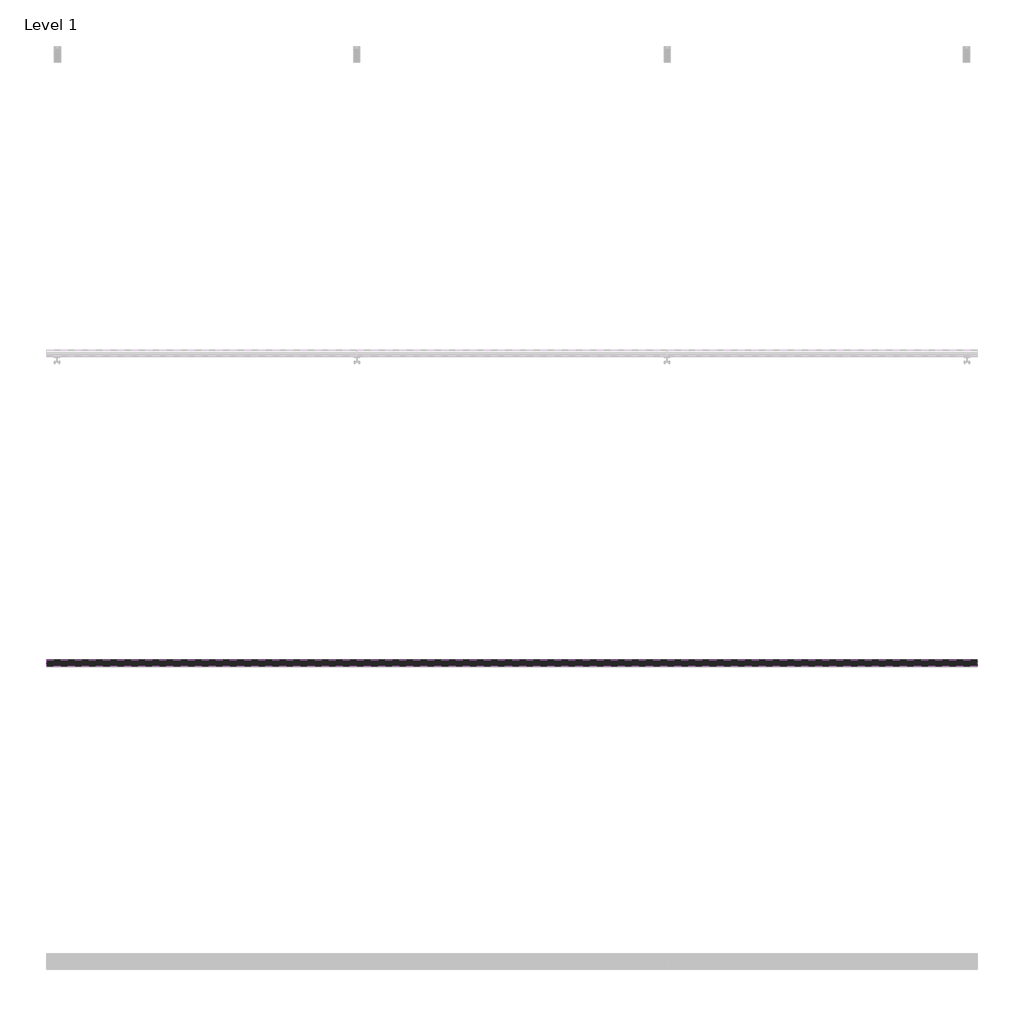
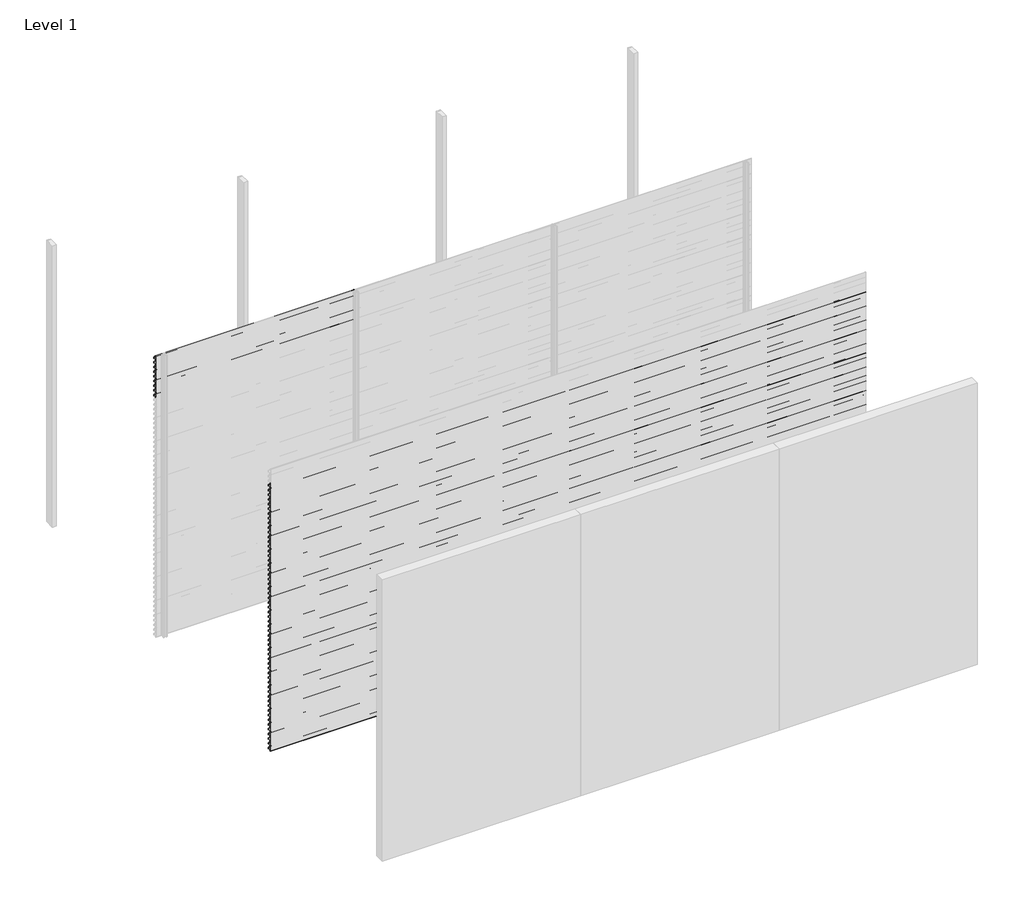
# One storey, part 10 of 38: 66 proxies.
"""IFC4 building model written with IfcOpenShell, lengths in millimetres."""

import ifcopenshell
import ifcopenshell.guid

model = None  # the IFC model being written
_history = None  # IfcOwnerHistory: only IFC2X3 demands one
_inside = {}  # id of a spatial element -> (the spatial element, [elements in it])
_under = {}  # id of a project, library or spatial element -> (it, [spatial elements below it])
_declared = {}  # id of a project -> (the project, [libraries it declares])
_typed = {}  # id of a type object -> (the type object, [elements of that type])
_made_of = {}  # id of a material, layer set ... -> (it, [elements and type objects made of it])


def new_model(schema):
    """Start an empty IFC model of exactly this schema.

    Asked for "IFC4X3", IfcOpenShell would pick the latest addendum, in which some entities
    have other attributes; the version numbers below select the first issue.
    IFC2X3 requires an IfcOwnerHistory on every rooted entity: one is made here for all.
    """
    global model, _history
    if schema == "IFC4X3":
        model = ifcopenshell.file(schema_version=(4, 3, 0, 0))
    else:
        model = ifcopenshell.file(schema=schema)
    _inside.clear()
    _under.clear()
    _declared.clear()
    _typed.clear()
    _made_of.clear()
    _history = None
    if model.schema == "IFC2X3":
        org = make("IfcOrganization", Name="unknown")
        user = make(
            "IfcPersonAndOrganization",
            ThePerson=make("IfcPerson", FamilyName="unknown"),
            TheOrganization=org,
        )
        app = make(
            "IfcApplication",
            ApplicationDeveloper=org,
            Version="unknown",
            ApplicationFullName="unknown",
            ApplicationIdentifier="unknown",
        )
        _history = make(
            "IfcOwnerHistory",
            OwningUser=user,
            OwningApplication=app,
            ChangeAction="ADDED",
            CreationDate=0,
        )
    return model


def make(cls, **values):
    """One entity of the class cls with the attributes given. An attribute that is None is left unset."""
    return model.create_entity(
        cls, **{name: value for name, value in values.items() if value is not None}
    )


def rooted(cls, **values):
    """An entity with a GlobalId (a new one), such as an element, a storey or a relation."""
    return make(cls, GlobalId=ifcopenshell.guid.new(), OwnerHistory=_history, **values)


def si_unit(unit_type, name, prefix=None):
    """IfcSIUnit, for example si_unit("LENGTHUNIT", "METRE", prefix="MILLI")."""
    return make("IfcSIUnit", UnitType=unit_type, Prefix=prefix, Name=name)


def assignment(units):
    """IfcUnitAssignment: the units of a project."""
    return None if units is None else make("IfcUnitAssignment", Units=units)


def point(xyz):
    """IfcCartesianPoint."""
    return None if xyz is None else make("IfcCartesianPoint", Coordinates=xyz)


def direction(xyz):
    """IfcDirection."""
    return None if xyz is None else make("IfcDirection", DirectionRatios=xyz)


def frame(location, z_axis=None, x_axis=None):
    """IfcAxis2Placement3D, a coordinate frame: its origin and axes. An axis left out is left unset."""
    return make(
        "IfcAxis2Placement3D",
        Location=point(location),
        Axis=direction(z_axis),
        RefDirection=direction(x_axis),
    )


def origin():
    """The frame at (0, 0, 0) with its axes left unset."""
    return frame((0.0, 0.0, 0.0))


def place(relative_to, where):
    """IfcLocalPlacement: puts the frame where relative to a parent placement (None: the world)."""
    return make(
        "IfcLocalPlacement", PlacementRelTo=relative_to, RelativePlacement=where
    )


def context(
    kind, dimensions, precision=None, world=None, true_north=None, identifier=None
):
    """IfcGeometricRepresentationContext, for example the 3D "Model" context."""
    return make(
        "IfcGeometricRepresentationContext",
        ContextIdentifier=identifier,
        ContextType=kind,
        CoordinateSpaceDimension=dimensions,
        Precision=precision,
        WorldCoordinateSystem=world,
        TrueNorth=true_north,
    )


def project(units=None, contexts=None):
    """IfcProject with its units and contexts."""
    return rooted(
        "IfcProject",
        Name="project",
        RepresentationContexts=contexts,
        UnitsInContext=assignment(units),
    )


def spatial(cls, under=None, at=None, **own):
    """A site, building, storey or space (cls), placed at a placement, below another one or the project."""
    s = rooted(cls, ObjectPlacement=at, **own)
    if under is not None:
        _under.setdefault(under.id(), (under, []))[1].append(s)
    return s


def polyline(points):
    """IfcPolyline through the points."""
    return make("IfcPolyline", Points=[point(p) for p in points])


def outline(outer, holes=None, kind="AREA"):
    """IfcArbitraryClosedProfileDef: a profile drawn as a closed curve; with holes, ...WithVoids."""
    if holes is None:
        return make("IfcArbitraryClosedProfileDef", ProfileType=kind, OuterCurve=outer)
    return make(
        "IfcArbitraryProfileDefWithVoids",
        ProfileType=kind,
        OuterCurve=outer,
        InnerCurves=holes,
    )


def extrude(swept, where, along, depth):
    """IfcExtrudedAreaSolid: the profile swept, set in the frame where, extruded along a direction by depth."""
    return make(
        "IfcExtrudedAreaSolid",
        SweptArea=swept,
        Position=where,
        ExtrudedDirection=direction(along),
        Depth=depth,
    )


def shape(context_of_items, identifier, shape_type, items):
    """IfcShapeRepresentation: the items that make up one representation, for example the "Body"."""
    return make(
        "IfcShapeRepresentation",
        ContextOfItems=context_of_items,
        RepresentationIdentifier=identifier,
        RepresentationType=shape_type,
        Items=items,
    )


def made_of(thing, what):
    """Note that an element or type object is made of a material, layer set ...; save() writes the relation."""
    if what is not None:
        _made_of.setdefault(what.id(), (what, []))[1].append(thing)
    return thing


def element(
    cls,
    number,
    at=None,
    inside=None,
    cuts=None,
    type_object=None,
    material=None,
    context=None,
    identifier="Body",
    shape_type=None,
    held_by="IfcProductDefinitionShape",
    body=None,
    shapes=None,
    **own,
):
    """One element of the class cls, such as IfcWall. Its Tag is "e" and its number.

    at: its placement. inside: the storey or other place that contains it. cuts: it is an
    opening in that element (IfcRelVoidsElement). A single representation is given by context,
    identifier, shape_type and body (its items); several are given by shapes. held_by: the class
    of the entity that holds the representations. save() writes the other relations.
    """
    e = rooted(cls, Tag="e%d" % number, ObjectPlacement=at, **own)
    if body is not None:
        shapes = [shape(context, identifier, shape_type, body)]
    if shapes is not None:
        e.Representation = make(held_by, Representations=shapes)
    if inside is not None:
        _inside.setdefault(inside.id(), (inside, []))[1].append(e)
    if cuts is not None:
        rooted(
            "IfcRelVoidsElement", RelatingBuildingElement=cuts, RelatedOpeningElement=e
        )
    if type_object is not None:
        _typed.setdefault(type_object.id(), (type_object, []))[1].append(e)
    return made_of(e, material)


def aggregate(whole, parts):
    """IfcRelAggregates: a whole, such as a stair, and the parts it consists of."""
    return rooted("IfcRelAggregates", RelatingObject=whole, RelatedObjects=parts)


def save(model, path):
    """Write the relations noted so far, then the file.

    IfcRelAggregates (storeys below a building ...), IfcRelContainedInSpatialStructure (elements
    in a storey), IfcRelDefinesByType, IfcRelAssociatesMaterial and IfcRelDeclares: one each for
    every whole, place, type object, material and project.
    """
    for whole, parts in _under.values():
        aggregate(whole, parts)
    for where, things in _inside.values():
        rooted(
            "IfcRelContainedInSpatialStructure",
            RelatedElements=things,
            RelatingStructure=where,
        )
    for kind, things in _typed.values():
        rooted("IfcRelDefinesByType", RelatedObjects=things, RelatingType=kind)
    for what, things in _made_of.values():
        rooted("IfcRelAssociatesMaterial", RelatedObjects=things, RelatingMaterial=what)
    for by, libraries in _declared.values():
        rooted("IfcRelDeclares", RelatingContext=by, RelatedDefinitions=libraries)
    model.write(path)


model = new_model("IFC4")

# Units and contexts
model_context = context("Model", 3, world=origin())
ifc_project = project(units=[si_unit("LENGTHUNIT", "METRE", prefix="MILLI")], contexts=[model_context])

# Site, building, storey
site = spatial("IfcSite", under=ifc_project)
building = spatial("IfcBuilding", under=site)
storey = spatial("IfcBuildingStorey", under=building, Name="Level 1", Elevation=0.0)

# Proxies
placement = place(None, origin())
element("IfcBuildingElementProxy", 1, Name="Wall Sweeps", at=placement, inside=storey, context=model_context, shape_type="SweptSolid", body=[
    extrude(outline(polyline([(-41996.75, 3000.0), (-41996.75, 2989.19656), (-41974.6057113, 2976.4115489), (-41957.0, 2959.0472005), (-41957.0, 2944.0472005), (-41958.3, 2945.0268207), (-41958.3, 2958.5034593), (-41969.4914725, 2969.541504), (-41994.2797376, 2940.0), (-41995.9767671, 2940.0), (-41970.4200307, 2970.4573323), (-41975.3999793, 2975.3690091), (-41998.0, 2988.4171371), (-41998.0, 3000.0), (-41996.75, 3000.0)])), frame((0.0, 0.0, 0.0), z_axis=(1.0, 0.0, 0.0), x_axis=(0.0, 1.0, 0.0)), (0.0, 0.0, 1.0), 2000.0),
])
element("IfcBuildingElementProxy", 2, Name="Wall Sweeps", at=placement, inside=storey, context=model_context, shape_type="SweptSolid", body=[
    extrude(outline(polyline([(-41996.75, 2950.0), (-41996.75, 2939.19656), (-41974.6057113, 2926.4115489), (-41957.0, 2909.0472005), (-41957.0, 2894.0472005), (-41958.3, 2895.0268207), (-41958.3, 2908.5034593), (-41969.4914725, 2919.541504), (-41994.2797376, 2890.0), (-41995.9767671, 2890.0), (-41970.4200307, 2920.4573323), (-41975.3999793, 2925.3690091), (-41998.0, 2938.4171371), (-41998.0, 2950.0), (-41996.75, 2950.0)])), frame((0.0, 0.0, 0.0), z_axis=(1.0, 0.0, 0.0), x_axis=(0.0, 1.0, 0.0)), (0.0, 0.0, 1.0), 2000.0),
])
element("IfcBuildingElementProxy", 3, Name="Wall Sweeps", at=placement, inside=storey, context=model_context, shape_type="SweptSolid", body=[
    extrude(outline(polyline([(-41996.75, 2900.0), (-41996.75, 2889.19656), (-41974.6057113, 2876.4115489), (-41957.0, 2859.0472005), (-41957.0, 2844.0472005), (-41958.3, 2845.0268207), (-41958.3, 2858.5034593), (-41969.4914725, 2869.541504), (-41994.2797376, 2840.0), (-41995.9767671, 2840.0), (-41970.4200307, 2870.4573323), (-41975.3999793, 2875.3690091), (-41998.0, 2888.4171371), (-41998.0, 2900.0), (-41996.75, 2900.0)])), frame((0.0, 0.0, 0.0), z_axis=(1.0, 0.0, 0.0), x_axis=(0.0, 1.0, 0.0)), (0.0, 0.0, 1.0), 2000.0),
])
element("IfcBuildingElementProxy", 4, Name="Wall Sweeps", at=placement, inside=storey, context=model_context, shape_type="SweptSolid", body=[
    extrude(outline(polyline([(-41996.75, 2850.0), (-41996.75, 2839.19656), (-41974.6057113, 2826.4115489), (-41957.0, 2809.0472005), (-41957.0, 2794.0472005), (-41958.3, 2795.0268207), (-41958.3, 2808.5034593), (-41969.4914725, 2819.541504), (-41994.2797376, 2790.0), (-41995.9767671, 2790.0), (-41970.4200307, 2820.4573323), (-41975.3999793, 2825.3690091), (-41998.0, 2838.4171371), (-41998.0, 2850.0), (-41996.75, 2850.0)])), frame((0.0, 0.0, 0.0), z_axis=(1.0, 0.0, 0.0), x_axis=(0.0, 1.0, 0.0)), (0.0, 0.0, 1.0), 2000.0),
])
element("IfcBuildingElementProxy", 5, Name="Wall Sweeps", at=placement, inside=storey, context=model_context, shape_type="SweptSolid", body=[
    extrude(outline(polyline([(-41996.75, 2800.0), (-41996.75, 2789.19656), (-41974.6057113, 2776.4115489), (-41957.0, 2759.0472005), (-41957.0, 2744.0472005), (-41958.3, 2745.0268207), (-41958.3, 2758.5034593), (-41969.4914725, 2769.541504), (-41994.2797376, 2740.0), (-41995.9767671, 2740.0), (-41970.4200307, 2770.4573323), (-41975.3999793, 2775.3690091), (-41998.0, 2788.4171371), (-41998.0, 2800.0), (-41996.75, 2800.0)])), frame((0.0, 0.0, 0.0), z_axis=(1.0, 0.0, 0.0), x_axis=(0.0, 1.0, 0.0)), (0.0, 0.0, 1.0), 2000.0),
])
element("IfcBuildingElementProxy", 6, Name="Wall Sweeps", at=placement, inside=storey, context=model_context, shape_type="SweptSolid", body=[
    extrude(outline(polyline([(-41996.75, 2750.0), (-41996.75, 2739.19656), (-41974.6057113, 2726.4115489), (-41957.0, 2709.0472005), (-41957.0, 2694.0472005), (-41958.3, 2695.0268207), (-41958.3, 2708.5034593), (-41969.4914725, 2719.541504), (-41994.2797376, 2690.0), (-41995.9767671, 2690.0), (-41970.4200307, 2720.4573323), (-41975.3999793, 2725.3690091), (-41998.0, 2738.4171371), (-41998.0, 2750.0), (-41996.75, 2750.0)])), frame((0.0, 0.0, 0.0), z_axis=(1.0, 0.0, 0.0), x_axis=(0.0, 1.0, 0.0)), (0.0, 0.0, 1.0), 2000.0),
])
element("IfcBuildingElementProxy", 7, Name="Wall Sweeps", at=placement, inside=storey, context=model_context, shape_type="SweptSolid", body=[
    extrude(outline(polyline([(-41996.75, 2700.0), (-41996.75, 2689.19656), (-41974.6057113, 2676.4115489), (-41957.0, 2659.0472005), (-41957.0, 2644.0472005), (-41958.3, 2645.0268207), (-41958.3, 2658.5034593), (-41969.4914725, 2669.541504), (-41994.2797376, 2640.0), (-41995.9767671, 2640.0), (-41970.4200307, 2670.4573323), (-41975.3999793, 2675.3690091), (-41998.0, 2688.4171371), (-41998.0, 2700.0), (-41996.75, 2700.0)])), frame((0.0, 0.0, 0.0), z_axis=(1.0, 0.0, 0.0), x_axis=(0.0, 1.0, 0.0)), (0.0, 0.0, 1.0), 2000.0),
])
element("IfcBuildingElementProxy", 8, Name="Wall Sweeps", at=placement, inside=storey, context=model_context, shape_type="SweptSolid", body=[
    extrude(outline(polyline([(-41996.75, 2650.0), (-41996.75, 2639.19656), (-41974.6057113, 2626.4115489), (-41957.0, 2609.0472005), (-41957.0, 2594.0472005), (-41958.3, 2595.0268207), (-41958.3, 2608.5034593), (-41969.4914725, 2619.541504), (-41994.2797376, 2590.0), (-41995.9767671, 2590.0), (-41970.4200307, 2620.4573323), (-41975.3999793, 2625.3690091), (-41998.0, 2638.4171371), (-41998.0, 2650.0), (-41996.75, 2650.0)])), frame((0.0, 0.0, 0.0), z_axis=(1.0, 0.0, 0.0), x_axis=(0.0, 1.0, 0.0)), (0.0, 0.0, 1.0), 2000.0),
])
element("IfcBuildingElementProxy", 9, Name="Wall Sweeps", at=placement, inside=storey, context=model_context, shape_type="SweptSolid", body=[
    extrude(outline(polyline([(-41996.75, 2600.0), (-41996.75, 2589.19656), (-41974.6057113, 2576.4115489), (-41957.0, 2559.0472005), (-41957.0, 2544.0472005), (-41958.3, 2545.0268207), (-41958.3, 2558.5034593), (-41969.4914725, 2569.541504), (-41994.2797376, 2540.0), (-41995.9767671, 2540.0), (-41970.4200307, 2570.4573323), (-41975.3999793, 2575.3690091), (-41998.0, 2588.4171371), (-41998.0, 2600.0), (-41996.75, 2600.0)])), frame((0.0, 0.0, 0.0), z_axis=(1.0, 0.0, 0.0), x_axis=(0.0, 1.0, 0.0)), (0.0, 0.0, 1.0), 2000.0),
])
element("IfcBuildingElementProxy", 10, Name="Wall Sweeps", at=placement, inside=storey, context=model_context, shape_type="SweptSolid", body=[
    extrude(outline(polyline([(-43996.75, 2850.0), (-43996.75, 2839.19656), (-43974.6057113, 2826.4115489), (-43957.0, 2809.0472005), (-43957.0, 2794.0472005), (-43958.3, 2795.0268207), (-43958.3, 2808.5034593), (-43969.4914725, 2819.541504), (-43994.2797376, 2790.0), (-43995.9767671, 2790.0), (-43970.4200307, 2820.4573323), (-43975.3999793, 2825.3690091), (-43998.0, 2838.4171371), (-43998.0, 2850.0), (-43996.75, 2850.0)])), frame((0.0, 0.0, 0.0), z_axis=(1.0, 0.0, 0.0), x_axis=(0.0, 1.0, 0.0)), (0.0, 0.0, 1.0), 6000.0),
])
element("IfcBuildingElementProxy", 11, Name="Wall Sweeps", at=placement, inside=storey, context=model_context, shape_type="SweptSolid", body=[
    extrude(outline(polyline([(-43996.75, 2800.0), (-43996.75, 2789.19656), (-43974.6057113, 2776.4115489), (-43957.0, 2759.0472005), (-43957.0, 2744.0472005), (-43958.3, 2745.0268207), (-43958.3, 2758.5034593), (-43969.4914725, 2769.541504), (-43994.2797376, 2740.0), (-43995.9767671, 2740.0), (-43970.4200307, 2770.4573323), (-43975.3999793, 2775.3690091), (-43998.0, 2788.4171371), (-43998.0, 2800.0), (-43996.75, 2800.0)])), frame((0.0, 0.0, 0.0), z_axis=(1.0, 0.0, 0.0), x_axis=(0.0, 1.0, 0.0)), (0.0, 0.0, 1.0), 6000.0),
])
element("IfcBuildingElementProxy", 12, Name="Wall Sweeps", at=placement, inside=storey, context=model_context, shape_type="SweptSolid", body=[
    extrude(outline(polyline([(-43996.75, 2750.0), (-43996.75, 2739.19656), (-43974.6057113, 2726.4115489), (-43957.0, 2709.0472005), (-43957.0, 2694.0472005), (-43958.3, 2695.0268207), (-43958.3, 2708.5034593), (-43969.4914725, 2719.541504), (-43994.2797376, 2690.0), (-43995.9767671, 2690.0), (-43970.4200307, 2720.4573323), (-43975.3999793, 2725.3690091), (-43998.0, 2738.4171371), (-43998.0, 2750.0), (-43996.75, 2750.0)])), frame((0.0, 0.0, 0.0), z_axis=(1.0, 0.0, 0.0), x_axis=(0.0, 1.0, 0.0)), (0.0, 0.0, 1.0), 6000.0),
])
element("IfcBuildingElementProxy", 13, Name="Wall Sweeps", at=placement, inside=storey, context=model_context, shape_type="SweptSolid", body=[
    extrude(outline(polyline([(-43996.75, 2700.0), (-43996.75, 2689.19656), (-43974.6057113, 2676.4115489), (-43957.0, 2659.0472005), (-43957.0, 2644.0472005), (-43958.3, 2645.0268207), (-43958.3, 2658.5034593), (-43969.4914725, 2669.541504), (-43994.2797376, 2640.0), (-43995.9767671, 2640.0), (-43970.4200307, 2670.4573323), (-43975.3999793, 2675.3690091), (-43998.0, 2688.4171371), (-43998.0, 2700.0), (-43996.75, 2700.0)])), frame((0.0, 0.0, 0.0), z_axis=(1.0, 0.0, 0.0), x_axis=(0.0, 1.0, 0.0)), (0.0, 0.0, 1.0), 6000.0),
])
element("IfcBuildingElementProxy", 14, Name="Wall Sweeps", at=placement, inside=storey, context=model_context, shape_type="SweptSolid", body=[
    extrude(outline(polyline([(-43996.75, 2650.0), (-43996.75, 2639.19656), (-43974.6057113, 2626.4115489), (-43957.0, 2609.0472005), (-43957.0, 2594.0472005), (-43958.3, 2595.0268207), (-43958.3, 2608.5034593), (-43969.4914725, 2619.541504), (-43994.2797376, 2590.0), (-43995.9767671, 2590.0), (-43970.4200307, 2620.4573323), (-43975.3999793, 2625.3690091), (-43998.0, 2638.4171371), (-43998.0, 2650.0), (-43996.75, 2650.0)])), frame((0.0, 0.0, 0.0), z_axis=(1.0, 0.0, 0.0), x_axis=(0.0, 1.0, 0.0)), (0.0, 0.0, 1.0), 6000.0),
])
element("IfcBuildingElementProxy", 15, Name="Wall Sweeps", at=placement, inside=storey, context=model_context, shape_type="SweptSolid", body=[
    extrude(outline(polyline([(-43996.75, 2600.0), (-43996.75, 2589.19656), (-43974.6057113, 2576.4115489), (-43957.0, 2559.0472005), (-43957.0, 2544.0472005), (-43958.3, 2545.0268207), (-43958.3, 2558.5034593), (-43969.4914725, 2569.541504), (-43994.2797376, 2540.0), (-43995.9767671, 2540.0), (-43970.4200307, 2570.4573323), (-43975.3999793, 2575.3690091), (-43998.0, 2588.4171371), (-43998.0, 2600.0), (-43996.75, 2600.0)])), frame((0.0, 0.0, 0.0), z_axis=(1.0, 0.0, 0.0), x_axis=(0.0, 1.0, 0.0)), (0.0, 0.0, 1.0), 6000.0),
])
element("IfcBuildingElementProxy", 16, Name="Wall Sweeps", at=placement, inside=storey, context=model_context, shape_type="SweptSolid", body=[
    extrude(outline(polyline([(-43996.75, 2550.0), (-43996.75, 2539.19656), (-43974.6057113, 2526.4115489), (-43957.0, 2509.0472005), (-43957.0, 2494.0472005), (-43958.3, 2495.0268207), (-43958.3, 2508.5034593), (-43969.4914725, 2519.541504), (-43994.2797376, 2490.0), (-43995.9767671, 2490.0), (-43970.4200307, 2520.4573323), (-43975.3999793, 2525.3690091), (-43998.0, 2538.4171371), (-43998.0, 2550.0), (-43996.75, 2550.0)])), frame((0.0, 0.0, 0.0), z_axis=(1.0, 0.0, 0.0), x_axis=(0.0, 1.0, 0.0)), (0.0, 0.0, 1.0), 6000.0),
])
element("IfcBuildingElementProxy", 17, Name="Wall Sweeps", at=placement, inside=storey, context=model_context, shape_type="SweptSolid", body=[
    extrude(outline(polyline([(-43996.75, 2500.0), (-43996.75, 2489.19656), (-43974.6057113, 2476.4115489), (-43957.0, 2459.0472005), (-43957.0, 2444.0472005), (-43958.3, 2445.0268207), (-43958.3, 2458.5034593), (-43969.4914725, 2469.541504), (-43994.2797376, 2440.0), (-43995.9767671, 2440.0), (-43970.4200307, 2470.4573323), (-43975.3999793, 2475.3690091), (-43998.0, 2488.4171371), (-43998.0, 2500.0), (-43996.75, 2500.0)])), frame((0.0, 0.0, 0.0), z_axis=(1.0, 0.0, 0.0), x_axis=(0.0, 1.0, 0.0)), (0.0, 0.0, 1.0), 6000.0),
])
element("IfcBuildingElementProxy", 18, Name="Wall Sweeps", at=placement, inside=storey, context=model_context, shape_type="SweptSolid", body=[
    extrude(outline(polyline([(-43996.75, 2450.0), (-43996.75, 2439.19656), (-43974.6057113, 2426.4115489), (-43957.0, 2409.0472005), (-43957.0, 2394.0472005), (-43958.3, 2395.0268207), (-43958.3, 2408.5034593), (-43969.4914725, 2419.541504), (-43994.2797376, 2390.0), (-43995.9767671, 2390.0), (-43970.4200307, 2420.4573323), (-43975.3999793, 2425.3690091), (-43998.0, 2438.4171371), (-43998.0, 2450.0), (-43996.75, 2450.0)])), frame((0.0, 0.0, 0.0), z_axis=(1.0, 0.0, 0.0), x_axis=(0.0, 1.0, 0.0)), (0.0, 0.0, 1.0), 6000.0),
])
element("IfcBuildingElementProxy", 19, Name="Wall Sweeps", at=placement, inside=storey, context=model_context, shape_type="SweptSolid", body=[
    extrude(outline(polyline([(-43996.75, 2400.0), (-43996.75, 2389.19656), (-43974.6057113, 2376.4115489), (-43957.0, 2359.0472005), (-43957.0, 2344.0472005), (-43958.3, 2345.0268207), (-43958.3, 2358.5034593), (-43969.4914725, 2369.541504), (-43994.2797376, 2340.0), (-43995.9767671, 2340.0), (-43970.4200307, 2370.4573323), (-43975.3999793, 2375.3690091), (-43998.0, 2388.4171371), (-43998.0, 2400.0), (-43996.75, 2400.0)])), frame((0.0, 0.0, 0.0), z_axis=(1.0, 0.0, 0.0), x_axis=(0.0, 1.0, 0.0)), (0.0, 0.0, 1.0), 6000.0),
])
element("IfcBuildingElementProxy", 20, Name="Wall Sweeps", at=placement, inside=storey, context=model_context, shape_type="SweptSolid", body=[
    extrude(outline(polyline([(-43996.75, 2350.0), (-43996.75, 2339.19656), (-43974.6057113, 2326.4115489), (-43957.0, 2309.0472005), (-43957.0, 2294.0472005), (-43958.3, 2295.0268207), (-43958.3, 2308.5034593), (-43969.4914725, 2319.541504), (-43994.2797376, 2290.0), (-43995.9767671, 2290.0), (-43970.4200307, 2320.4573323), (-43975.3999793, 2325.3690091), (-43998.0, 2338.4171371), (-43998.0, 2350.0), (-43996.75, 2350.0)])), frame((0.0, 0.0, 0.0), z_axis=(1.0, 0.0, 0.0), x_axis=(0.0, 1.0, 0.0)), (0.0, 0.0, 1.0), 6000.0),
])
element("IfcBuildingElementProxy", 21, Name="Wall Sweeps", at=placement, inside=storey, context=model_context, shape_type="SweptSolid", body=[
    extrude(outline(polyline([(-43996.75, 2300.0), (-43996.75, 2289.19656), (-43974.6057113, 2276.4115489), (-43957.0, 2259.0472005), (-43957.0, 2244.0472005), (-43958.3, 2245.0268207), (-43958.3, 2258.5034593), (-43969.4914725, 2269.541504), (-43994.2797376, 2240.0), (-43995.9767671, 2240.0), (-43970.4200307, 2270.4573323), (-43975.3999793, 2275.3690091), (-43998.0, 2288.4171371), (-43998.0, 2300.0), (-43996.75, 2300.0)])), frame((0.0, 0.0, 0.0), z_axis=(1.0, 0.0, 0.0), x_axis=(0.0, 1.0, 0.0)), (0.0, 0.0, 1.0), 6000.0),
])
element("IfcBuildingElementProxy", 22, Name="Wall Sweeps", at=placement, inside=storey, context=model_context, shape_type="SweptSolid", body=[
    extrude(outline(polyline([(-43996.75, 2250.0), (-43996.75, 2239.19656), (-43974.6057113, 2226.4115489), (-43957.0, 2209.0472005), (-43957.0, 2194.0472005), (-43958.3, 2195.0268207), (-43958.3, 2208.5034593), (-43969.4914725, 2219.541504), (-43994.2797376, 2190.0), (-43995.9767671, 2190.0), (-43970.4200307, 2220.4573323), (-43975.3999793, 2225.3690091), (-43998.0, 2238.4171371), (-43998.0, 2250.0), (-43996.75, 2250.0)])), frame((0.0, 0.0, 0.0), z_axis=(1.0, 0.0, 0.0), x_axis=(0.0, 1.0, 0.0)), (0.0, 0.0, 1.0), 6000.0),
])
element("IfcBuildingElementProxy", 23, Name="Wall Sweeps", at=placement, inside=storey, context=model_context, shape_type="SweptSolid", body=[
    extrude(outline(polyline([(-43996.75, 2200.0), (-43996.75, 2189.19656), (-43974.6057113, 2176.4115489), (-43957.0, 2159.0472005), (-43957.0, 2144.0472005), (-43958.3, 2145.0268207), (-43958.3, 2158.5034593), (-43969.4914725, 2169.541504), (-43994.2797376, 2140.0), (-43995.9767671, 2140.0), (-43970.4200307, 2170.4573323), (-43975.3999793, 2175.3690091), (-43998.0, 2188.4171371), (-43998.0, 2200.0), (-43996.75, 2200.0)])), frame((0.0, 0.0, 0.0), z_axis=(1.0, 0.0, 0.0), x_axis=(0.0, 1.0, 0.0)), (0.0, 0.0, 1.0), 6000.0),
])
element("IfcBuildingElementProxy", 24, Name="Wall Sweeps", at=placement, inside=storey, context=model_context, shape_type="SweptSolid", body=[
    extrude(outline(polyline([(-43996.75, 2150.0), (-43996.75, 2139.19656), (-43974.6057113, 2126.4115489), (-43957.0, 2109.0472005), (-43957.0, 2094.0472005), (-43958.3, 2095.0268207), (-43958.3, 2108.5034593), (-43969.4914725, 2119.541504), (-43994.2797376, 2090.0), (-43995.9767671, 2090.0), (-43970.4200307, 2120.4573323), (-43975.3999793, 2125.3690091), (-43998.0, 2138.4171371), (-43998.0, 2150.0), (-43996.75, 2150.0)])), frame((0.0, 0.0, 0.0), z_axis=(1.0, 0.0, 0.0), x_axis=(0.0, 1.0, 0.0)), (0.0, 0.0, 1.0), 6000.0),
])
element("IfcBuildingElementProxy", 25, Name="Wall Sweeps", at=placement, inside=storey, context=model_context, shape_type="SweptSolid", body=[
    extrude(outline(polyline([(-43996.75, 2100.0), (-43996.75, 2089.19656), (-43974.6057113, 2076.4115489), (-43957.0, 2059.0472005), (-43957.0, 2044.0472005), (-43958.3, 2045.0268207), (-43958.3, 2058.5034593), (-43969.4914725, 2069.541504), (-43994.2797376, 2040.0), (-43995.9767671, 2040.0), (-43970.4200307, 2070.4573323), (-43975.3999793, 2075.3690091), (-43998.0, 2088.4171371), (-43998.0, 2100.0), (-43996.75, 2100.0)])), frame((0.0, 0.0, 0.0), z_axis=(1.0, 0.0, 0.0), x_axis=(0.0, 1.0, 0.0)), (0.0, 0.0, 1.0), 6000.0),
])
element("IfcBuildingElementProxy", 26, Name="Wall Sweeps", at=placement, inside=storey, context=model_context, shape_type="SweptSolid", body=[
    extrude(outline(polyline([(-43996.75, 2050.0), (-43996.75, 2039.19656), (-43974.6057113, 2026.4115489), (-43957.0, 2009.0472005), (-43957.0, 1994.0472005), (-43958.3, 1995.0268207), (-43958.3, 2008.5034593), (-43969.4914725, 2019.541504), (-43994.2797376, 1990.0), (-43995.9767671, 1990.0), (-43970.4200307, 2020.4573323), (-43975.3999793, 2025.3690091), (-43998.0, 2038.4171371), (-43998.0, 2050.0), (-43996.75, 2050.0)])), frame((0.0, 0.0, 0.0), z_axis=(1.0, 0.0, 0.0), x_axis=(0.0, 1.0, 0.0)), (0.0, 0.0, 1.0), 6000.0),
])
element("IfcBuildingElementProxy", 27, Name="Wall Sweeps", at=placement, inside=storey, context=model_context, shape_type="SweptSolid", body=[
    extrude(outline(polyline([(-43996.75, 2000.0), (-43996.75, 1989.19656), (-43974.6057113, 1976.4115489), (-43957.0, 1959.0472005), (-43957.0, 1944.0472005), (-43958.3, 1945.0268207), (-43958.3, 1958.5034593), (-43969.4914725, 1969.541504), (-43994.2797376, 1940.0), (-43995.9767671, 1940.0), (-43970.4200307, 1970.4573323), (-43975.3999793, 1975.3690091), (-43998.0, 1988.4171371), (-43998.0, 2000.0), (-43996.75, 2000.0)])), frame((0.0, 0.0, 0.0), z_axis=(1.0, 0.0, 0.0), x_axis=(0.0, 1.0, 0.0)), (0.0, 0.0, 1.0), 6000.0),
])
element("IfcBuildingElementProxy", 28, Name="Wall Sweeps", at=placement, inside=storey, context=model_context, shape_type="SweptSolid", body=[
    extrude(outline(polyline([(-43996.75, 1950.0), (-43996.75, 1939.19656), (-43974.6057113, 1926.4115489), (-43957.0, 1909.0472005), (-43957.0, 1894.0472005), (-43958.3, 1895.0268207), (-43958.3, 1908.5034593), (-43969.4914725, 1919.541504), (-43994.2797376, 1890.0), (-43995.9767671, 1890.0), (-43970.4200307, 1920.4573323), (-43975.3999793, 1925.3690091), (-43998.0, 1938.4171371), (-43998.0, 1950.0), (-43996.75, 1950.0)])), frame((0.0, 0.0, 0.0), z_axis=(1.0, 0.0, 0.0), x_axis=(0.0, 1.0, 0.0)), (0.0, 0.0, 1.0), 6000.0),
])
element("IfcBuildingElementProxy", 29, Name="Wall Sweeps", at=placement, inside=storey, context=model_context, shape_type="SweptSolid", body=[
    extrude(outline(polyline([(-43996.75, 1900.0), (-43996.75, 1889.19656), (-43974.6057113, 1876.4115489), (-43957.0, 1859.0472005), (-43957.0, 1844.0472005), (-43958.3, 1845.0268207), (-43958.3, 1858.5034593), (-43969.4914725, 1869.541504), (-43994.2797376, 1840.0), (-43995.9767671, 1840.0), (-43970.4200307, 1870.4573323), (-43975.3999793, 1875.3690091), (-43998.0, 1888.4171371), (-43998.0, 1900.0), (-43996.75, 1900.0)])), frame((0.0, 0.0, 0.0), z_axis=(1.0, 0.0, 0.0), x_axis=(0.0, 1.0, 0.0)), (0.0, 0.0, 1.0), 6000.0),
])
element("IfcBuildingElementProxy", 30, Name="Wall Sweeps", at=placement, inside=storey, context=model_context, shape_type="SweptSolid", body=[
    extrude(outline(polyline([(-43996.75, 1850.0), (-43996.75, 1839.19656), (-43974.6057113, 1826.4115489), (-43957.0, 1809.0472005), (-43957.0, 1794.0472005), (-43958.3, 1795.0268207), (-43958.3, 1808.5034593), (-43969.4914725, 1819.541504), (-43994.2797376, 1790.0), (-43995.9767671, 1790.0), (-43970.4200307, 1820.4573323), (-43975.3999793, 1825.3690091), (-43998.0, 1838.4171371), (-43998.0, 1850.0), (-43996.75, 1850.0)])), frame((0.0, 0.0, 0.0), z_axis=(1.0, 0.0, 0.0), x_axis=(0.0, 1.0, 0.0)), (0.0, 0.0, 1.0), 6000.0),
])
element("IfcBuildingElementProxy", 31, Name="Wall Sweeps", at=placement, inside=storey, context=model_context, shape_type="SweptSolid", body=[
    extrude(outline(polyline([(-43996.75, 1800.0), (-43996.75, 1789.19656), (-43974.6057113, 1776.4115489), (-43957.0, 1759.0472005), (-43957.0, 1744.0472005), (-43958.3, 1745.0268207), (-43958.3, 1758.5034593), (-43969.4914725, 1769.541504), (-43994.2797376, 1740.0), (-43995.9767671, 1740.0), (-43970.4200307, 1770.4573323), (-43975.3999793, 1775.3690091), (-43998.0, 1788.4171371), (-43998.0, 1800.0), (-43996.75, 1800.0)])), frame((0.0, 0.0, 0.0), z_axis=(1.0, 0.0, 0.0), x_axis=(0.0, 1.0, 0.0)), (0.0, 0.0, 1.0), 6000.0),
])
element("IfcBuildingElementProxy", 32, Name="Wall Sweeps", at=placement, inside=storey, context=model_context, shape_type="SweptSolid", body=[
    extrude(outline(polyline([(-43996.75, 1750.0), (-43996.75, 1739.19656), (-43974.6057113, 1726.4115489), (-43957.0, 1709.0472005), (-43957.0, 1694.0472005), (-43958.3, 1695.0268207), (-43958.3, 1708.5034593), (-43969.4914725, 1719.541504), (-43994.2797376, 1690.0), (-43995.9767671, 1690.0), (-43970.4200307, 1720.4573323), (-43975.3999793, 1725.3690091), (-43998.0, 1738.4171371), (-43998.0, 1750.0), (-43996.75, 1750.0)])), frame((0.0, 0.0, 0.0), z_axis=(1.0, 0.0, 0.0), x_axis=(0.0, 1.0, 0.0)), (0.0, 0.0, 1.0), 6000.0),
])
element("IfcBuildingElementProxy", 33, Name="Wall Sweeps", at=placement, inside=storey, context=model_context, shape_type="SweptSolid", body=[
    extrude(outline(polyline([(-43996.75, 1700.0), (-43996.75, 1689.19656), (-43974.6057113, 1676.4115489), (-43957.0, 1659.0472005), (-43957.0, 1644.0472005), (-43958.3, 1645.0268207), (-43958.3, 1658.5034593), (-43969.4914725, 1669.541504), (-43994.2797376, 1640.0), (-43995.9767671, 1640.0), (-43970.4200307, 1670.4573323), (-43975.3999793, 1675.3690091), (-43998.0, 1688.4171371), (-43998.0, 1700.0), (-43996.75, 1700.0)])), frame((0.0, 0.0, 0.0), z_axis=(1.0, 0.0, 0.0), x_axis=(0.0, 1.0, 0.0)), (0.0, 0.0, 1.0), 6000.0),
])
element("IfcBuildingElementProxy", 34, Name="Wall Sweeps", at=placement, inside=storey, context=model_context, shape_type="SweptSolid", body=[
    extrude(outline(polyline([(-43996.75, 1650.0), (-43996.75, 1639.19656), (-43974.6057113, 1626.4115489), (-43957.0, 1609.0472005), (-43957.0, 1594.0472005), (-43958.3, 1595.0268207), (-43958.3, 1608.5034593), (-43969.4914725, 1619.541504), (-43994.2797376, 1590.0), (-43995.9767671, 1590.0), (-43970.4200307, 1620.4573323), (-43975.3999793, 1625.3690091), (-43998.0, 1638.4171371), (-43998.0, 1650.0), (-43996.75, 1650.0)])), frame((0.0, 0.0, 0.0), z_axis=(1.0, 0.0, 0.0), x_axis=(0.0, 1.0, 0.0)), (0.0, 0.0, 1.0), 6000.0),
])
element("IfcBuildingElementProxy", 35, Name="Wall Sweeps", at=placement, inside=storey, context=model_context, shape_type="SweptSolid", body=[
    extrude(outline(polyline([(-43996.75, 1600.0), (-43996.75, 1589.19656), (-43974.6057113, 1576.4115489), (-43957.0, 1559.0472005), (-43957.0, 1544.0472005), (-43958.3, 1545.0268207), (-43958.3, 1558.5034593), (-43969.4914725, 1569.541504), (-43994.2797376, 1540.0), (-43995.9767671, 1540.0), (-43970.4200307, 1570.4573323), (-43975.3999793, 1575.3690091), (-43998.0, 1588.4171371), (-43998.0, 1600.0), (-43996.75, 1600.0)])), frame((0.0, 0.0, 0.0), z_axis=(1.0, 0.0, 0.0), x_axis=(0.0, 1.0, 0.0)), (0.0, 0.0, 1.0), 6000.0),
])
element("IfcBuildingElementProxy", 36, Name="Wall Sweeps", at=placement, inside=storey, context=model_context, shape_type="SweptSolid", body=[
    extrude(outline(polyline([(-43996.75, 1550.0), (-43996.75, 1539.19656), (-43974.6057113, 1526.4115489), (-43957.0, 1509.0472005), (-43957.0, 1494.0472005), (-43958.3, 1495.0268207), (-43958.3, 1508.5034593), (-43969.4914725, 1519.541504), (-43994.2797376, 1490.0), (-43995.9767671, 1490.0), (-43970.4200307, 1520.4573323), (-43975.3999793, 1525.3690091), (-43998.0, 1538.4171371), (-43998.0, 1550.0), (-43996.75, 1550.0)])), frame((0.0, 0.0, 0.0), z_axis=(1.0, 0.0, 0.0), x_axis=(0.0, 1.0, 0.0)), (0.0, 0.0, 1.0), 6000.0),
])
element("IfcBuildingElementProxy", 37, Name="Wall Sweeps", at=placement, inside=storey, context=model_context, shape_type="SweptSolid", body=[
    extrude(outline(polyline([(-43996.75, 1500.0), (-43996.75, 1489.19656), (-43974.6057113, 1476.4115489), (-43957.0, 1459.0472005), (-43957.0, 1444.0472005), (-43958.3, 1445.0268207), (-43958.3, 1458.5034593), (-43969.4914725, 1469.541504), (-43994.2797376, 1440.0), (-43995.9767671, 1440.0), (-43970.4200307, 1470.4573323), (-43975.3999793, 1475.3690091), (-43998.0, 1488.4171371), (-43998.0, 1500.0), (-43996.75, 1500.0)])), frame((0.0, 0.0, 0.0), z_axis=(1.0, 0.0, 0.0), x_axis=(0.0, 1.0, 0.0)), (0.0, 0.0, 1.0), 6000.0),
])
element("IfcBuildingElementProxy", 38, Name="Wall Sweeps", at=placement, inside=storey, context=model_context, shape_type="SweptSolid", body=[
    extrude(outline(polyline([(-43996.75, 1450.0), (-43996.75, 1439.19656), (-43974.6057113, 1426.4115489), (-43957.0, 1409.0472005), (-43957.0, 1394.0472005), (-43958.3, 1395.0268207), (-43958.3, 1408.5034593), (-43969.4914725, 1419.541504), (-43994.2797376, 1390.0), (-43995.9767671, 1390.0), (-43970.4200307, 1420.4573323), (-43975.3999793, 1425.3690091), (-43998.0, 1438.4171371), (-43998.0, 1450.0), (-43996.75, 1450.0)])), frame((0.0, 0.0, 0.0), z_axis=(1.0, 0.0, 0.0), x_axis=(0.0, 1.0, 0.0)), (0.0, 0.0, 1.0), 6000.0),
])
element("IfcBuildingElementProxy", 39, Name="Wall Sweeps", at=placement, inside=storey, context=model_context, shape_type="SweptSolid", body=[
    extrude(outline(polyline([(-43996.75, 1400.0), (-43996.75, 1389.19656), (-43974.6057113, 1376.4115489), (-43957.0, 1359.0472005), (-43957.0, 1344.0472005), (-43958.3, 1345.0268207), (-43958.3, 1358.5034593), (-43969.4914725, 1369.541504), (-43994.2797376, 1340.0), (-43995.9767671, 1340.0), (-43970.4200307, 1370.4573323), (-43975.3999793, 1375.3690091), (-43998.0, 1388.4171371), (-43998.0, 1400.0), (-43996.75, 1400.0)])), frame((0.0, 0.0, 0.0), z_axis=(1.0, 0.0, 0.0), x_axis=(0.0, 1.0, 0.0)), (0.0, 0.0, 1.0), 6000.0),
])
element("IfcBuildingElementProxy", 40, Name="Wall Sweeps", at=placement, inside=storey, context=model_context, shape_type="SweptSolid", body=[
    extrude(outline(polyline([(-43996.75, 1350.0), (-43996.75, 1339.19656), (-43974.6057113, 1326.4115489), (-43957.0, 1309.0472005), (-43957.0, 1294.0472005), (-43958.3, 1295.0268207), (-43958.3, 1308.5034593), (-43969.4914725, 1319.541504), (-43994.2797376, 1290.0), (-43995.9767671, 1290.0), (-43970.4200307, 1320.4573323), (-43975.3999793, 1325.3690091), (-43998.0, 1338.4171371), (-43998.0, 1350.0), (-43996.75, 1350.0)])), frame((0.0, 0.0, 0.0), z_axis=(1.0, 0.0, 0.0), x_axis=(0.0, 1.0, 0.0)), (0.0, 0.0, 1.0), 6000.0),
])
element("IfcBuildingElementProxy", 41, Name="Wall Sweeps", at=placement, inside=storey, context=model_context, shape_type="SweptSolid", body=[
    extrude(outline(polyline([(-43996.75, 1300.0), (-43996.75, 1289.19656), (-43974.6057113, 1276.4115489), (-43957.0, 1259.0472005), (-43957.0, 1244.0472005), (-43958.3, 1245.0268207), (-43958.3, 1258.5034593), (-43969.4914725, 1269.541504), (-43994.2797376, 1240.0), (-43995.9767671, 1240.0), (-43970.4200307, 1270.4573323), (-43975.3999793, 1275.3690091), (-43998.0, 1288.4171371), (-43998.0, 1300.0), (-43996.75, 1300.0)])), frame((0.0, 0.0, 0.0), z_axis=(1.0, 0.0, 0.0), x_axis=(0.0, 1.0, 0.0)), (0.0, 0.0, 1.0), 6000.0),
])
element("IfcBuildingElementProxy", 42, Name="Wall Sweeps", at=placement, inside=storey, context=model_context, shape_type="SweptSolid", body=[
    extrude(outline(polyline([(-43996.75, 1250.0), (-43996.75, 1239.19656), (-43974.6057113, 1226.4115489), (-43957.0, 1209.0472005), (-43957.0, 1194.0472005), (-43958.3, 1195.0268207), (-43958.3, 1208.5034593), (-43969.4914725, 1219.541504), (-43994.2797376, 1190.0), (-43995.9767671, 1190.0), (-43970.4200307, 1220.4573323), (-43975.3999793, 1225.3690091), (-43998.0, 1238.4171371), (-43998.0, 1250.0), (-43996.75, 1250.0)])), frame((0.0, 0.0, 0.0), z_axis=(1.0, 0.0, 0.0), x_axis=(0.0, 1.0, 0.0)), (0.0, 0.0, 1.0), 6000.0),
])
element("IfcBuildingElementProxy", 43, Name="Wall Sweeps", at=placement, inside=storey, context=model_context, shape_type="SweptSolid", body=[
    extrude(outline(polyline([(-43996.75, 1200.0), (-43996.75, 1189.19656), (-43974.6057113, 1176.4115489), (-43957.0, 1159.0472005), (-43957.0, 1144.0472005), (-43958.3, 1145.0268207), (-43958.3, 1158.5034593), (-43969.4914725, 1169.541504), (-43994.2797376, 1140.0), (-43995.9767671, 1140.0), (-43970.4200307, 1170.4573323), (-43975.3999793, 1175.3690091), (-43998.0, 1188.4171371), (-43998.0, 1200.0), (-43996.75, 1200.0)])), frame((0.0, 0.0, 0.0), z_axis=(1.0, 0.0, 0.0), x_axis=(0.0, 1.0, 0.0)), (0.0, 0.0, 1.0), 6000.0),
])
element("IfcBuildingElementProxy", 44, Name="Wall Sweeps", at=placement, inside=storey, context=model_context, shape_type="SweptSolid", body=[
    extrude(outline(polyline([(-43996.75, 1150.0), (-43996.75, 1139.19656), (-43974.6057113, 1126.4115489), (-43957.0, 1109.0472005), (-43957.0, 1094.0472005), (-43958.3, 1095.0268207), (-43958.3, 1108.5034593), (-43969.4914725, 1119.541504), (-43994.2797376, 1090.0), (-43995.9767671, 1090.0), (-43970.4200307, 1120.4573323), (-43975.3999793, 1125.3690091), (-43998.0, 1138.4171371), (-43998.0, 1150.0), (-43996.75, 1150.0)])), frame((0.0, 0.0, 0.0), z_axis=(1.0, 0.0, 0.0), x_axis=(0.0, 1.0, 0.0)), (0.0, 0.0, 1.0), 6000.0),
])
element("IfcBuildingElementProxy", 45, Name="Wall Sweeps", at=placement, inside=storey, context=model_context, shape_type="SweptSolid", body=[
    extrude(outline(polyline([(-43996.75, 1100.0), (-43996.75, 1089.19656), (-43974.6057113, 1076.4115489), (-43957.0, 1059.0472005), (-43957.0, 1044.0472005), (-43958.3, 1045.0268207), (-43958.3, 1058.5034593), (-43969.4914725, 1069.541504), (-43994.2797376, 1040.0), (-43995.9767671, 1040.0), (-43970.4200307, 1070.4573323), (-43975.3999793, 1075.3690091), (-43998.0, 1088.4171371), (-43998.0, 1100.0), (-43996.75, 1100.0)])), frame((0.0, 0.0, 0.0), z_axis=(1.0, 0.0, 0.0), x_axis=(0.0, 1.0, 0.0)), (0.0, 0.0, 1.0), 6000.0),
])
element("IfcBuildingElementProxy", 46, Name="Wall Sweeps", at=placement, inside=storey, context=model_context, shape_type="SweptSolid", body=[
    extrude(outline(polyline([(-43996.75, 1050.0), (-43996.75, 1039.19656), (-43974.6057113, 1026.4115489), (-43957.0, 1009.0472005), (-43957.0, 994.0472005), (-43958.3, 995.0268207), (-43958.3, 1008.5034593), (-43969.4914725, 1019.541504), (-43994.2797376, 990.0), (-43995.9767671, 990.0), (-43970.4200307, 1020.4573323), (-43975.3999793, 1025.3690091), (-43998.0, 1038.4171371), (-43998.0, 1050.0), (-43996.75, 1050.0)])), frame((0.0, 0.0, 0.0), z_axis=(1.0, 0.0, 0.0), x_axis=(0.0, 1.0, 0.0)), (0.0, 0.0, 1.0), 6000.0),
])
element("IfcBuildingElementProxy", 47, Name="Wall Sweeps", at=placement, inside=storey, context=model_context, shape_type="SweptSolid", body=[
    extrude(outline(polyline([(-43996.75, 1000.0), (-43996.75, 989.19656), (-43974.6057113, 976.4115489), (-43957.0, 959.0472005), (-43957.0, 944.0472005), (-43958.3, 945.0268207), (-43958.3, 958.5034593), (-43969.4914725, 969.541504), (-43994.2797376, 940.0), (-43995.9767671, 940.0), (-43970.4200307, 970.4573323), (-43975.3999793, 975.3690091), (-43998.0, 988.4171371), (-43998.0, 1000.0), (-43996.75, 1000.0)])), frame((0.0, 0.0, 0.0), z_axis=(1.0, 0.0, 0.0), x_axis=(0.0, 1.0, 0.0)), (0.0, 0.0, 1.0), 6000.0),
])
element("IfcBuildingElementProxy", 48, Name="Wall Sweeps", at=placement, inside=storey, context=model_context, shape_type="SweptSolid", body=[
    extrude(outline(polyline([(-43996.75, 950.0), (-43996.75, 939.19656), (-43974.6057113, 926.4115489), (-43957.0, 909.0472005), (-43957.0, 894.0472005), (-43958.3, 895.0268207), (-43958.3, 908.5034593), (-43969.4914725, 919.541504), (-43994.2797376, 890.0), (-43995.9767671, 890.0), (-43970.4200307, 920.4573323), (-43975.3999793, 925.3690091), (-43998.0, 938.4171371), (-43998.0, 950.0), (-43996.75, 950.0)])), frame((0.0, 0.0, 0.0), z_axis=(1.0, 0.0, 0.0), x_axis=(0.0, 1.0, 0.0)), (0.0, 0.0, 1.0), 6000.0),
])
element("IfcBuildingElementProxy", 49, Name="Wall Sweeps", at=placement, inside=storey, context=model_context, shape_type="SweptSolid", body=[
    extrude(outline(polyline([(-43996.75, 900.0), (-43996.75, 889.19656), (-43974.6057113, 876.4115489), (-43957.0, 859.0472005), (-43957.0, 844.0472005), (-43958.3, 845.0268207), (-43958.3, 858.5034593), (-43969.4914725, 869.541504), (-43994.2797376, 840.0), (-43995.9767671, 840.0), (-43970.4200307, 870.4573323), (-43975.3999793, 875.3690091), (-43998.0, 888.4171371), (-43998.0, 900.0), (-43996.75, 900.0)])), frame((0.0, 0.0, 0.0), z_axis=(1.0, 0.0, 0.0), x_axis=(0.0, 1.0, 0.0)), (0.0, 0.0, 1.0), 6000.0),
])
element("IfcBuildingElementProxy", 50, Name="Wall Sweeps", at=placement, inside=storey, context=model_context, shape_type="SweptSolid", body=[
    extrude(outline(polyline([(-43996.75, 850.0), (-43996.75, 839.19656), (-43974.6057113, 826.4115489), (-43957.0, 809.0472005), (-43957.0, 794.0472005), (-43958.3, 795.0268207), (-43958.3, 808.5034593), (-43969.4914725, 819.541504), (-43994.2797376, 790.0), (-43995.9767671, 790.0), (-43970.4200307, 820.4573323), (-43975.3999793, 825.3690091), (-43998.0, 838.4171371), (-43998.0, 850.0), (-43996.75, 850.0)])), frame((0.0, 0.0, 0.0), z_axis=(1.0, 0.0, 0.0), x_axis=(0.0, 1.0, 0.0)), (0.0, 0.0, 1.0), 6000.0),
])
element("IfcBuildingElementProxy", 51, Name="Wall Sweeps", at=placement, inside=storey, context=model_context, shape_type="SweptSolid", body=[
    extrude(outline(polyline([(-43996.75, 800.0), (-43996.75, 789.19656), (-43974.6057113, 776.4115489), (-43957.0, 759.0472005), (-43957.0, 744.0472005), (-43958.3, 745.0268207), (-43958.3, 758.5034593), (-43969.4914725, 769.541504), (-43994.2797376, 740.0), (-43995.9767671, 740.0), (-43970.4200307, 770.4573323), (-43975.3999793, 775.3690091), (-43998.0, 788.4171371), (-43998.0, 800.0), (-43996.75, 800.0)])), frame((0.0, 0.0, 0.0), z_axis=(1.0, 0.0, 0.0), x_axis=(0.0, 1.0, 0.0)), (0.0, 0.0, 1.0), 6000.0),
])
element("IfcBuildingElementProxy", 52, Name="Wall Sweeps", at=placement, inside=storey, context=model_context, shape_type="SweptSolid", body=[
    extrude(outline(polyline([(-43996.75, 750.0), (-43996.75, 739.19656), (-43974.6057113, 726.4115489), (-43957.0, 709.0472005), (-43957.0, 694.0472005), (-43958.3, 695.0268207), (-43958.3, 708.5034593), (-43969.4914725, 719.541504), (-43994.2797376, 690.0), (-43995.9767671, 690.0), (-43970.4200307, 720.4573323), (-43975.3999793, 725.3690091), (-43998.0, 738.4171371), (-43998.0, 750.0), (-43996.75, 750.0)])), frame((0.0, 0.0, 0.0), z_axis=(1.0, 0.0, 0.0), x_axis=(0.0, 1.0, 0.0)), (0.0, 0.0, 1.0), 6000.0),
])
element("IfcBuildingElementProxy", 53, Name="Wall Sweeps", at=placement, inside=storey, context=model_context, shape_type="SweptSolid", body=[
    extrude(outline(polyline([(-43996.75, 700.0), (-43996.75, 689.19656), (-43974.6057113, 676.4115489), (-43957.0, 659.0472005), (-43957.0, 644.0472005), (-43958.3, 645.0268207), (-43958.3, 658.5034593), (-43969.4914725, 669.541504), (-43994.2797376, 640.0), (-43995.9767671, 640.0), (-43970.4200307, 670.4573323), (-43975.3999793, 675.3690091), (-43998.0, 688.4171371), (-43998.0, 700.0), (-43996.75, 700.0)])), frame((0.0, 0.0, 0.0), z_axis=(1.0, 0.0, 0.0), x_axis=(0.0, 1.0, 0.0)), (0.0, 0.0, 1.0), 6000.0),
])
element("IfcBuildingElementProxy", 54, Name="Wall Sweeps", at=placement, inside=storey, context=model_context, shape_type="SweptSolid", body=[
    extrude(outline(polyline([(-43996.75, 650.0), (-43996.75, 639.19656), (-43974.6057113, 626.4115489), (-43957.0, 609.0472005), (-43957.0, 594.0472005), (-43958.3, 595.0268207), (-43958.3, 608.5034593), (-43969.4914725, 619.541504), (-43994.2797376, 590.0), (-43995.9767671, 590.0), (-43970.4200307, 620.4573323), (-43975.3999793, 625.3690091), (-43998.0, 638.4171371), (-43998.0, 650.0), (-43996.75, 650.0)])), frame((0.0, 0.0, 0.0), z_axis=(1.0, 0.0, 0.0), x_axis=(0.0, 1.0, 0.0)), (0.0, 0.0, 1.0), 6000.0),
])
element("IfcBuildingElementProxy", 55, Name="Wall Sweeps", at=placement, inside=storey, context=model_context, shape_type="SweptSolid", body=[
    extrude(outline(polyline([(-43996.75, 600.0), (-43996.75, 589.19656), (-43974.6057113, 576.4115489), (-43957.0, 559.0472005), (-43957.0, 544.0472005), (-43958.3, 545.0268207), (-43958.3, 558.5034593), (-43969.4914725, 569.541504), (-43994.2797376, 540.0), (-43995.9767671, 540.0), (-43970.4200307, 570.4573323), (-43975.3999793, 575.3690091), (-43998.0, 588.4171371), (-43998.0, 600.0), (-43996.75, 600.0)])), frame((0.0, 0.0, 0.0), z_axis=(1.0, 0.0, 0.0), x_axis=(0.0, 1.0, 0.0)), (0.0, 0.0, 1.0), 6000.0),
])
element("IfcBuildingElementProxy", 56, Name="Wall Sweeps", at=placement, inside=storey, context=model_context, shape_type="SweptSolid", body=[
    extrude(outline(polyline([(-43996.75, 550.0), (-43996.75, 539.19656), (-43974.6057113, 526.4115489), (-43957.0, 509.0472005), (-43957.0, 494.0472005), (-43958.3, 495.0268207), (-43958.3, 508.5034593), (-43969.4914725, 519.541504), (-43994.2797376, 490.0), (-43995.9767671, 490.0), (-43970.4200307, 520.4573323), (-43975.3999793, 525.3690091), (-43998.0, 538.4171371), (-43998.0, 550.0), (-43996.75, 550.0)])), frame((0.0, 0.0, 0.0), z_axis=(1.0, 0.0, 0.0), x_axis=(0.0, 1.0, 0.0)), (0.0, 0.0, 1.0), 6000.0),
])
element("IfcBuildingElementProxy", 57, Name="Wall Sweeps", at=placement, inside=storey, context=model_context, shape_type="SweptSolid", body=[
    extrude(outline(polyline([(-43996.75, 500.0), (-43996.75, 489.19656), (-43974.6057113, 476.4115489), (-43957.0, 459.0472005), (-43957.0, 444.0472005), (-43958.3, 445.0268207), (-43958.3, 458.5034593), (-43969.4914725, 469.541504), (-43994.2797376, 440.0), (-43995.9767671, 440.0), (-43970.4200307, 470.4573323), (-43975.3999793, 475.3690091), (-43998.0, 488.4171371), (-43998.0, 500.0), (-43996.75, 500.0)])), frame((0.0, 0.0, 0.0), z_axis=(1.0, 0.0, 0.0), x_axis=(0.0, 1.0, 0.0)), (0.0, 0.0, 1.0), 6000.0),
])
element("IfcBuildingElementProxy", 58, Name="Wall Sweeps", at=placement, inside=storey, context=model_context, shape_type="SweptSolid", body=[
    extrude(outline(polyline([(-43996.75, 450.0), (-43996.75, 439.19656), (-43974.6057113, 426.4115489), (-43957.0, 409.0472005), (-43957.0, 394.0472005), (-43958.3, 395.0268207), (-43958.3, 408.5034593), (-43969.4914725, 419.541504), (-43994.2797376, 390.0), (-43995.9767671, 390.0), (-43970.4200307, 420.4573323), (-43975.3999793, 425.3690091), (-43998.0, 438.4171371), (-43998.0, 450.0), (-43996.75, 450.0)])), frame((0.0, 0.0, 0.0), z_axis=(1.0, 0.0, 0.0), x_axis=(0.0, 1.0, 0.0)), (0.0, 0.0, 1.0), 6000.0),
])
element("IfcBuildingElementProxy", 59, Name="Wall Sweeps", at=placement, inside=storey, context=model_context, shape_type="SweptSolid", body=[
    extrude(outline(polyline([(-43996.75, 400.0), (-43996.75, 389.19656), (-43974.6057113, 376.4115489), (-43957.0, 359.0472005), (-43957.0, 344.0472005), (-43958.3, 345.0268207), (-43958.3, 358.5034593), (-43969.4914725, 369.541504), (-43994.2797376, 340.0), (-43995.9767671, 340.0), (-43970.4200307, 370.4573323), (-43975.3999793, 375.3690091), (-43998.0, 388.4171371), (-43998.0, 400.0), (-43996.75, 400.0)])), frame((0.0, 0.0, 0.0), z_axis=(1.0, 0.0, 0.0), x_axis=(0.0, 1.0, 0.0)), (0.0, 0.0, 1.0), 6000.0),
])
element("IfcBuildingElementProxy", 60, Name="Wall Sweeps", at=placement, inside=storey, context=model_context, shape_type="SweptSolid", body=[
    extrude(outline(polyline([(-43996.75, 350.0), (-43996.75, 339.19656), (-43974.6057113, 326.4115489), (-43957.0, 309.0472005), (-43957.0, 294.0472005), (-43958.3, 295.0268207), (-43958.3, 308.5034593), (-43969.4914725, 319.541504), (-43994.2797376, 290.0), (-43995.9767671, 290.0), (-43970.4200307, 320.4573323), (-43975.3999793, 325.3690091), (-43998.0, 338.4171371), (-43998.0, 350.0), (-43996.75, 350.0)])), frame((0.0, 0.0, 0.0), z_axis=(1.0, 0.0, 0.0), x_axis=(0.0, 1.0, 0.0)), (0.0, 0.0, 1.0), 6000.0),
])
element("IfcBuildingElementProxy", 61, Name="Wall Sweeps", at=placement, inside=storey, context=model_context, shape_type="SweptSolid", body=[
    extrude(outline(polyline([(-43996.75, 300.0), (-43996.75, 289.19656), (-43974.6057113, 276.4115489), (-43957.0, 259.0472005), (-43957.0, 244.0472005), (-43958.3, 245.0268207), (-43958.3, 258.5034593), (-43969.4914725, 269.541504), (-43994.2797376, 240.0), (-43995.9767671, 240.0), (-43970.4200307, 270.4573323), (-43975.3999793, 275.3690091), (-43998.0, 288.4171371), (-43998.0, 300.0), (-43996.75, 300.0)])), frame((0.0, 0.0, 0.0), z_axis=(1.0, 0.0, 0.0), x_axis=(0.0, 1.0, 0.0)), (0.0, 0.0, 1.0), 6000.0),
])
element("IfcBuildingElementProxy", 62, Name="Wall Sweeps", at=placement, inside=storey, context=model_context, shape_type="SweptSolid", body=[
    extrude(outline(polyline([(-43996.75, 250.0), (-43996.75, 239.19656), (-43974.6057113, 226.4115489), (-43957.0, 209.0472005), (-43957.0, 194.0472005), (-43958.3, 195.0268207), (-43958.3, 208.5034593), (-43969.4914725, 219.541504), (-43994.2797376, 190.0), (-43995.9767671, 190.0), (-43970.4200307, 220.4573323), (-43975.3999793, 225.3690091), (-43998.0, 238.4171371), (-43998.0, 250.0), (-43996.75, 250.0)])), frame((0.0, 0.0, 0.0), z_axis=(1.0, 0.0, 0.0), x_axis=(0.0, 1.0, 0.0)), (0.0, 0.0, 1.0), 6000.0),
])
element("IfcBuildingElementProxy", 63, Name="Wall Sweeps", at=placement, inside=storey, context=model_context, shape_type="SweptSolid", body=[
    extrude(outline(polyline([(-43996.75, 200.0), (-43996.75, 189.19656), (-43974.6057113, 176.4115489), (-43957.0, 159.0472005), (-43957.0, 144.0472005), (-43958.3, 145.0268207), (-43958.3, 158.5034593), (-43969.4914725, 169.541504), (-43994.2797376, 140.0), (-43995.9767671, 140.0), (-43970.4200307, 170.4573323), (-43975.3999793, 175.3690091), (-43998.0, 188.4171371), (-43998.0, 200.0), (-43996.75, 200.0)])), frame((0.0, 0.0, 0.0), z_axis=(1.0, 0.0, 0.0), x_axis=(0.0, 1.0, 0.0)), (0.0, 0.0, 1.0), 6000.0),
])
element("IfcBuildingElementProxy", 64, Name="Wall Sweeps", at=placement, inside=storey, context=model_context, shape_type="SweptSolid", body=[
    extrude(outline(polyline([(-43996.75, 150.0), (-43996.75, 139.19656), (-43974.6057113, 126.4115489), (-43957.0, 109.0472005), (-43957.0, 94.0472005), (-43958.3, 95.0268207), (-43958.3, 108.5034593), (-43969.4914725, 119.541504), (-43994.2797376, 90.0), (-43995.9767671, 90.0), (-43970.4200307, 120.4573323), (-43975.3999793, 125.3690091), (-43998.0, 138.4171371), (-43998.0, 150.0), (-43996.75, 150.0)])), frame((0.0, 0.0, 0.0), z_axis=(1.0, 0.0, 0.0), x_axis=(0.0, 1.0, 0.0)), (0.0, 0.0, 1.0), 6000.0),
])
element("IfcBuildingElementProxy", 65, Name="Wall Sweeps", at=placement, inside=storey, context=model_context, shape_type="SweptSolid", body=[
    extrude(outline(polyline([(-43996.75, 100.0), (-43996.75, 89.19656), (-43974.6057113, 76.4115489), (-43957.0, 59.0472005), (-43957.0, 44.0472005), (-43958.3, 45.0268207), (-43958.3, 58.5034593), (-43969.4914725, 69.541504), (-43994.2797376, 40.0), (-43995.9767671, 40.0), (-43970.4200307, 70.4573323), (-43975.3999793, 75.3690091), (-43998.0, 88.4171371), (-43998.0, 100.0), (-43996.75, 100.0)])), frame((0.0, 0.0, 0.0), z_axis=(1.0, 0.0, 0.0), x_axis=(0.0, 1.0, 0.0)), (0.0, 0.0, 1.0), 6000.0),
])
element("IfcBuildingElementProxy", 66, Name="Wall Sweeps", at=placement, inside=storey, context=model_context, shape_type="SweptSolid", body=[
    extrude(outline(polyline([(-43996.75, 50.0), (-43996.75, 39.19656), (-43974.6057113, 26.4115489), (-43957.0, 9.0472005), (-43957.0, -5.9527995), (-43958.3, -4.9731793), (-43958.3, 8.5034593), (-43969.4914725, 19.541504), (-43994.2797376, -10.0), (-43995.9767671, -10.0), (-43970.4200307, 20.4573323), (-43975.3999793, 25.3690091), (-43998.0, 38.4171371), (-43998.0, 50.0), (-43996.75, 50.0)])), frame((0.0, 0.0, 0.0), z_axis=(1.0, 0.0, 0.0), x_axis=(0.0, 1.0, 0.0)), (0.0, 0.0, 1.0), 6000.0),
])

save(model, "model.ifc")
